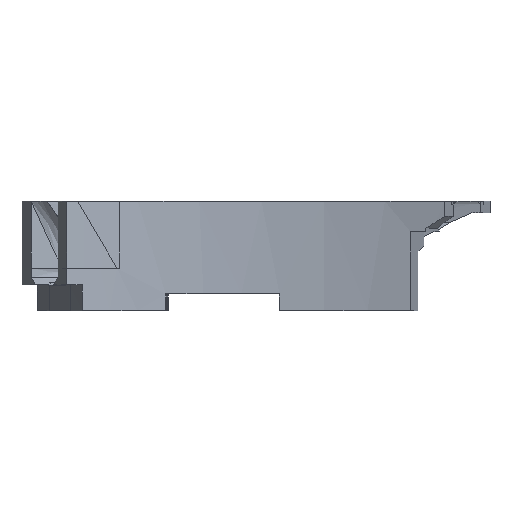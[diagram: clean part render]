
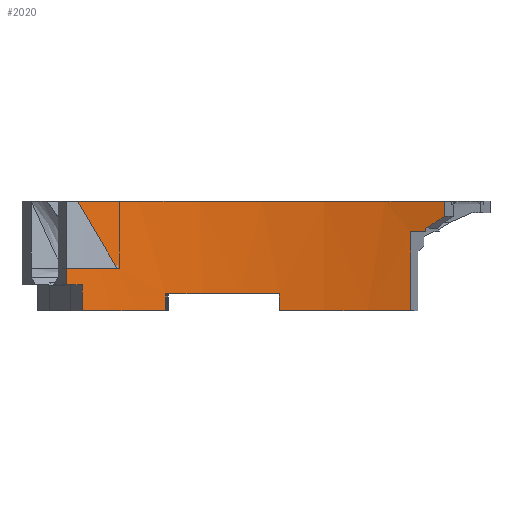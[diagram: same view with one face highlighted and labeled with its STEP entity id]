
A CAD part, front view. The second image highlights one B-rep face of the part: STEP entity #2020.
In plain terms, the highlighted cylindrical face has radius 274.127 mm (diameter 548.254 mm), a partial arc.
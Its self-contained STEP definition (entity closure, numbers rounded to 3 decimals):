
#52=ELLIPSE('',#2174,319.806,274.127);
#100=CYLINDRICAL_SURFACE('',#2185,274.127);
#136=CIRCLE('',#2171,274.127);
#141=CIRCLE('',#2184,274.127);
#142=CIRCLE('',#2186,274.127);
#143=CIRCLE('',#2187,274.127);
#144=CIRCLE('',#2188,274.127);
#145=CIRCLE('',#2189,274.127);
#146=CIRCLE('',#2190,274.127);
#217=LINE('',#3818,#362);
#221=LINE('',#4019,#366);
#229=LINE('',#4044,#374);
#231=LINE('',#4054,#376);
#232=LINE('',#4057,#377);
#233=LINE('',#4059,#378);
#234=LINE('',#4073,#379);
#362=VECTOR('',#2459,304.8);
#366=VECTOR('',#2469,304.8);
#374=VECTOR('',#2491,304.8);
#376=VECTOR('',#2501,304.8);
#377=VECTOR('',#2504,304.8);
#378=VECTOR('',#2505,304.8);
#379=VECTOR('',#2512,304.8);
#585=FACE_OUTER_BOUND('',#714,.T.);
#714=EDGE_LOOP('',(#1575,#1576,#1577,#1578,#1579,#1580,#1581,#1582,#1583,
#1584,#1585,#1586,#1587,#1588,#1589,#1590));
#822=B_SPLINE_CURVE_WITH_KNOTS('',3,(#4063,#4064,#4065,#4066,#4067,#4068,
#4069),.UNSPECIFIED.,.F.,.F.,(4,3,4),(-3.78,-1.89,
0.),.UNSPECIFIED.);
#930=VERTEX_POINT('',#3811);
#931=VERTEX_POINT('',#3813);
#932=VERTEX_POINT('',#3817);
#938=VERTEX_POINT('',#4012);
#939=VERTEX_POINT('',#4014);
#940=VERTEX_POINT('',#4018);
#950=VERTEX_POINT('',#4042);
#951=VERTEX_POINT('',#4046);
#952=VERTEX_POINT('',#4050);
#953=VERTEX_POINT('',#4051);
#954=VERTEX_POINT('',#4053);
#955=VERTEX_POINT('',#4055);
#956=VERTEX_POINT('',#4058);
#957=VERTEX_POINT('',#4060);
#958=VERTEX_POINT('',#4062);
#959=VERTEX_POINT('',#4071);
#1154=EDGE_CURVE('',#931,#930,#136,.T.);
#1156=EDGE_CURVE('',#931,#932,#217,.T.);
#1166=EDGE_CURVE('',#938,#939,#52,.T.);
#1167=EDGE_CURVE('',#940,#938,#221,.T.);
#1180=EDGE_CURVE('',#930,#950,#229,.T.);
#1181=EDGE_CURVE('',#951,#940,#141,.T.);
#1183=EDGE_CURVE('',#952,#953,#142,.T.);
#1184=EDGE_CURVE('',#953,#954,#231,.T.);
#1185=EDGE_CURVE('',#955,#954,#143,.T.);
#1186=EDGE_CURVE('',#955,#951,#232,.T.);
#1187=EDGE_CURVE('',#939,#956,#233,.T.);
#1188=EDGE_CURVE('',#957,#956,#144,.T.);
#1189=EDGE_CURVE('',#957,#958,#822,.T.);
#1190=EDGE_CURVE('',#958,#932,#145,.T.);
#1191=EDGE_CURVE('',#959,#950,#146,.T.);
#1192=EDGE_CURVE('',#959,#952,#234,.T.);
#1575=ORIENTED_EDGE('',*,*,#1183,.T.);
#1576=ORIENTED_EDGE('',*,*,#1184,.T.);
#1577=ORIENTED_EDGE('',*,*,#1185,.F.);
#1578=ORIENTED_EDGE('',*,*,#1186,.T.);
#1579=ORIENTED_EDGE('',*,*,#1181,.T.);
#1580=ORIENTED_EDGE('',*,*,#1167,.T.);
#1581=ORIENTED_EDGE('',*,*,#1166,.T.);
#1582=ORIENTED_EDGE('',*,*,#1187,.T.);
#1583=ORIENTED_EDGE('',*,*,#1188,.F.);
#1584=ORIENTED_EDGE('',*,*,#1189,.T.);
#1585=ORIENTED_EDGE('',*,*,#1190,.T.);
#1586=ORIENTED_EDGE('',*,*,#1156,.F.);
#1587=ORIENTED_EDGE('',*,*,#1154,.T.);
#1588=ORIENTED_EDGE('',*,*,#1180,.T.);
#1589=ORIENTED_EDGE('',*,*,#1191,.F.);
#1590=ORIENTED_EDGE('',*,*,#1192,.T.);
#2020=ADVANCED_FACE('',(#585),#100,.F.);
#2171=AXIS2_PLACEMENT_3D('',#3814,#2454,#2455);
#2174=AXIS2_PLACEMENT_3D('',#4016,#2465,#2466);
#2184=AXIS2_PLACEMENT_3D('',#4047,#2494,#2495);
#2185=AXIS2_PLACEMENT_3D('',#4049,#2497,#2498);
#2186=AXIS2_PLACEMENT_3D('',#4052,#2499,#2500);
#2187=AXIS2_PLACEMENT_3D('',#4056,#2502,#2503);
#2188=AXIS2_PLACEMENT_3D('',#4061,#2506,#2507);
#2189=AXIS2_PLACEMENT_3D('',#4070,#2508,#2509);
#2190=AXIS2_PLACEMENT_3D('',#4072,#2510,#2511);
#2454=DIRECTION('center_axis',(0.,0.,-1.));
#2455=DIRECTION('ref_axis',(0.769,-0.639,0.));
#2459=DIRECTION('',(0.,0.,1.));
#2465=DIRECTION('center_axis',(0.486,-0.17,-0.857));
#2466=DIRECTION('ref_axis',(0.809,-0.283,0.515));
#2469=DIRECTION('',(0.,0.,1.));
#2491=DIRECTION('',(0.,0.,-1.));
#2494=DIRECTION('center_axis',(0.,0.,-1.));
#2495=DIRECTION('ref_axis',(0.769,-0.639,0.));
#2497=DIRECTION('center_axis',(0.,0.,-1.));
#2498=DIRECTION('ref_axis',(0.769,-0.639,0.));
#2499=DIRECTION('center_axis',(0.,0.,-1.));
#2500=DIRECTION('ref_axis',(0.769,-0.639,0.));
#2501=DIRECTION('',(0.,0.,-1.));
#2502=DIRECTION('center_axis',(0.,0.,1.));
#2503=DIRECTION('ref_axis',(0.769,-0.639,0.));
#2504=DIRECTION('',(0.,0.,1.));
#2505=DIRECTION('',(0.,0.,1.));
#2506=DIRECTION('center_axis',(0.,0.,-1.));
#2507=DIRECTION('ref_axis',(0.769,-0.639,0.));
#2508=DIRECTION('center_axis',(0.,0.,1.));
#2509=DIRECTION('ref_axis',(0.769,-0.639,0.));
#2510=DIRECTION('center_axis',(0.,0.,1.));
#2511=DIRECTION('ref_axis',(0.769,-0.639,0.));
#2512=DIRECTION('',(0.,0.,1.));
#3811=CARTESIAN_POINT('',(-83.565,2.517,12.5));
#3813=CARTESIAN_POINT('',(-91.056,0.,12.5));
#3814=CARTESIAN_POINT('Origin',(0.,-258.562,12.5));
#3817=CARTESIAN_POINT('',(-91.056,0.,20.467));
#3818=CARTESIAN_POINT('',(-91.056,0.,20.467));
#4012=CARTESIAN_POINT('',(81.956,3.027,39.696));
#4014=CARTESIAN_POINT('',(91.056,0.,45.458));
#4016=CARTESIAN_POINT('Origin',(0.,-258.562,45.182));
#4018=CARTESIAN_POINT('',(81.956,3.027,38.02));
#4019=CARTESIAN_POINT('',(81.956,3.027,38.02));
#4042=CARTESIAN_POINT('',(-83.565,2.517,0.));
#4044=CARTESIAN_POINT('',(-83.565,2.517,12.5));
#4046=CARTESIAN_POINT('',(74.597,5.22,38.02));
#4047=CARTESIAN_POINT('Origin',(0.,-258.562,38.02));
#4049=CARTESIAN_POINT('Origin',(0.,-258.562,0.));
#4050=CARTESIAN_POINT('',(-43.403,12.107,8.1));
#4051=CARTESIAN_POINT('',(11.451,15.326,8.1));
#4052=CARTESIAN_POINT('Origin',(0.,-258.562,8.1));
#4053=CARTESIAN_POINT('',(11.451,15.326,0.));
#4054=CARTESIAN_POINT('',(11.451,15.326,8.1));
#4055=CARTESIAN_POINT('',(74.597,5.22,0.));
#4056=CARTESIAN_POINT('Origin',(0.,-258.562,0.));
#4057=CARTESIAN_POINT('',(74.597,5.22,0.));
#4058=CARTESIAN_POINT('',(91.056,0.,52.7));
#4059=CARTESIAN_POINT('',(91.056,0.,52.7));
#4060=CARTESIAN_POINT('',(-85.747,1.809,52.7));
#4061=CARTESIAN_POINT('Origin',(0.,-258.562,52.7));
#4062=CARTESIAN_POINT('',(-66.795,7.303,20.467));
#4063=CARTESIAN_POINT('Ctrl Pts',(-85.747,1.809,52.7));
#4064=CARTESIAN_POINT('Ctrl Pts',(-82.621,2.838,47.327));
#4065=CARTESIAN_POINT('Ctrl Pts',(-79.477,3.811,41.958));
#4066=CARTESIAN_POINT('Ctrl Pts',(-76.316,4.728,36.586));
#4067=CARTESIAN_POINT('Ctrl Pts',(-73.155,5.644,31.213));
#4068=CARTESIAN_POINT('Ctrl Pts',(-69.981,6.502,25.843));
#4069=CARTESIAN_POINT('Ctrl Pts',(-66.795,7.303,20.467));
#4070=CARTESIAN_POINT('Origin',(0.,-258.562,20.467));
#4071=CARTESIAN_POINT('',(-43.403,12.107,0.));
#4072=CARTESIAN_POINT('Origin',(0.,-258.562,0.));
#4073=CARTESIAN_POINT('',(-43.403,12.107,0.));
